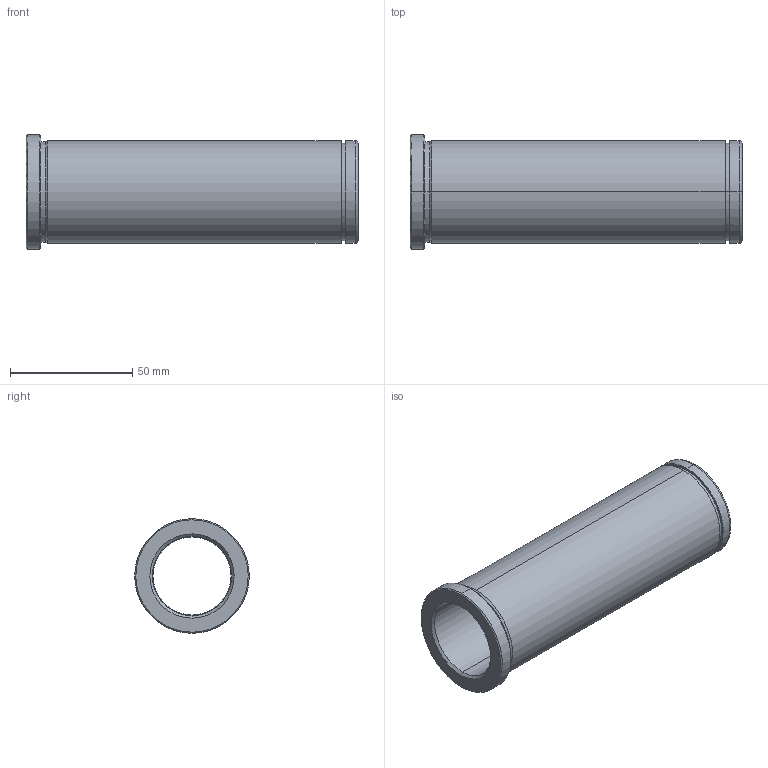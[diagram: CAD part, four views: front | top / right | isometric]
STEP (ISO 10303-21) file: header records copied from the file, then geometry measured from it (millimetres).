
FILE_DESCRIPTION(('CATIA V5 STEP Exchange'),'2;1');
FILE_NAME('C:\Users\Utente\Desktop\IO LAVORO\3D X SITO CF\X SITO\PLASTICA\553\553-32X136.stp','2021-05-26T18:41:23+00:00',('none'),('none'),'CATIA Version 5 Release 20 GA (IN-10)','CATIA V5 STEP AP203','none');
FILE_SCHEMA(('CONFIG_CONTROL_DESIGN'));
Length unit declared in the file: millimetre
Products named in the file (1): 553-32X136
Bounding box: 136 x 47 x 47 mm (x, y, z)
Volume: 79460.3 mm3; surface area: 33637.1 mm2
Topology: 1 solids, 1 shells, 32 faces, 102 edges, 76 vertices
Faces by surface type: cylinder 14, cone 8, plane 6, torus 4
Entity records: 1340 total; most frequent: CARTESIAN_POINT 399, ORIENTED_EDGE 204, DIRECTION 150, EDGE_CURVE 102, AXIS2_PLACEMENT_3D 97, VERTEX_POINT 76, CIRCLE 64, EDGE_LOOP 38
